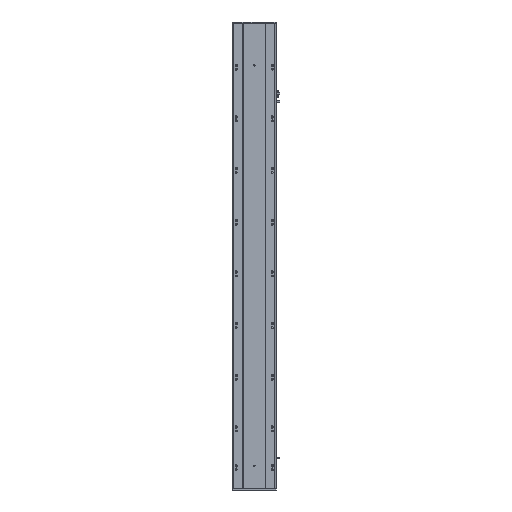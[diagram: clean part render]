
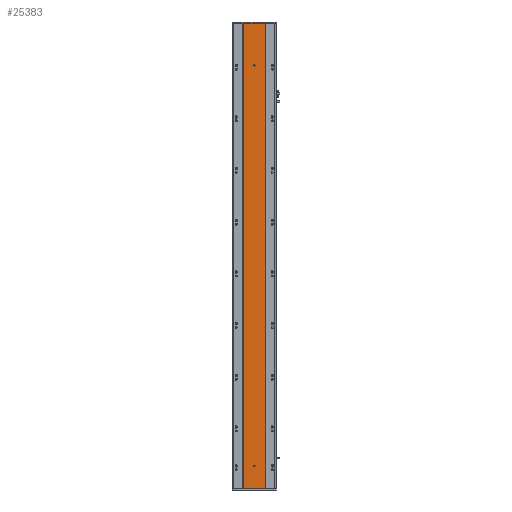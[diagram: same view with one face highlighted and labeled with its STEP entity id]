
A CAD part, front view. The second image highlights one B-rep face of the part: STEP entity #25383.
In plain terms, the highlighted planar face has unit normal (0, -1, 0).
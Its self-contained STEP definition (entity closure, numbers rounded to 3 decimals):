
#206 = CARTESIAN_POINT ( 'NONE',  ( 42.916, 2.57, 1801. ) ) ;
#211 = DIRECTION ( 'NONE',  ( 0., 1., 0. ) ) ;
#227 = VERTEX_POINT ( 'NONE', #11263 ) ;
#434 = ORIENTED_EDGE ( 'NONE', *, *, #15100, .T. ) ;
#745 = CARTESIAN_POINT ( 'NONE',  ( 42.916, 2.57, 0. ) ) ;
#1095 = ORIENTED_EDGE ( 'NONE', *, *, #8632, .F. ) ;
#1358 = DIRECTION ( 'NONE',  ( 0., 1., 0. ) ) ;
#1544 = DIRECTION ( 'NONE',  ( 0., 0., 1. ) ) ;
#1625 = CARTESIAN_POINT ( 'NONE',  ( 85., 2.57, 88.5 ) ) ;
#2312 = ORIENTED_EDGE ( 'NONE', *, *, #4499, .T. ) ;
#2417 = AXIS2_PLACEMENT_3D ( 'NONE', #12900, #211, #14986 ) ;
#2889 = DIRECTION ( 'NONE',  ( 0., 0., 1. ) ) ;
#3333 = VERTEX_POINT ( 'NONE', #9045 ) ;
#3544 = CIRCLE ( 'NONE', #17287, 3. ) ;
#3647 = CARTESIAN_POINT ( 'NONE',  ( 42.916, 2.57, 0. ) ) ;
#3763 = DIRECTION ( 'NONE',  ( 0., 0., 1. ) ) ;
#4018 = DIRECTION ( 'NONE',  ( 0., 0., 1. ) ) ;
#4142 = VERTEX_POINT ( 'NONE', #16982 ) ;
#4392 = LINE ( 'NONE', #745, #14939 ) ;
#4499 = EDGE_CURVE ( 'NONE', #25143, #18192, #25700, .T. ) ;
#4501 = VECTOR ( 'NONE', #5792, 1000. ) ;
#4582 = EDGE_CURVE ( 'NONE', #4142, #227, #13329, .T. ) ;
#5792 = DIRECTION ( 'NONE',  ( -1., 0., 0. ) ) ;
#7042 = FACE_BOUND ( 'NONE', #16133, .T. ) ;
#7349 = CARTESIAN_POINT ( 'NONE',  ( 85., 2.57, 1635.5 ) ) ;
#7976 = AXIS2_PLACEMENT_3D ( 'NONE', #14047, #1358, #16127 ) ;
#8007 = AXIS2_PLACEMENT_3D ( 'NONE', #21703, #9185, #23773 ) ;
#8632 = EDGE_CURVE ( 'NONE', #4142, #19494, #21227, .T. ) ;
#9045 = CARTESIAN_POINT ( 'NONE',  ( 85., 2.57, 85.5 ) ) ;
#9185 = DIRECTION ( 'NONE',  ( 0., 1., 0. ) ) ;
#10925 = ORIENTED_EDGE ( 'NONE', *, *, #13110, .T. ) ;
#11051 = VERTEX_POINT ( 'NONE', #206 ) ;
#11087 = VERTEX_POINT ( 'NONE', #14984 ) ;
#11263 = CARTESIAN_POINT ( 'NONE',  ( 126.916, 2.57, 1801. ) ) ;
#11557 = DIRECTION ( 'NONE',  ( -1., 0., 0. ) ) ;
#11914 = CARTESIAN_POINT ( 'NONE',  ( 42.916, 2.57, 0. ) ) ;
#12011 = FACE_OUTER_BOUND ( 'NONE', #22843, .T. ) ;
#12900 = CARTESIAN_POINT ( 'NONE',  ( 85., 2.57, 1638.5 ) ) ;
#13110 = EDGE_CURVE ( 'NONE', #18192, #25143, #23914, .T. ) ;
#13329 = LINE ( 'NONE', #16301, #23708 ) ;
#13742 = CIRCLE ( 'NONE', #8007, 3. ) ;
#14047 = CARTESIAN_POINT ( 'NONE',  ( 85., 2.57, 1638.5 ) ) ;
#14086 = EDGE_CURVE ( 'NONE', #3333, #11087, #3544, .T. ) ;
#14087 = LINE ( 'NONE', #15765, #24465 ) ;
#14939 = VECTOR ( 'NONE', #2889, 1000. ) ;
#14984 = CARTESIAN_POINT ( 'NONE',  ( 85., 2.57, 91.5 ) ) ;
#14986 = DIRECTION ( 'NONE',  ( 0., 0., 1. ) ) ;
#15100 = EDGE_CURVE ( 'NONE', #227, #11051, #14087, .T. ) ;
#15765 = CARTESIAN_POINT ( 'NONE',  ( 42.916, 2.57, 1801. ) ) ;
#16127 = DIRECTION ( 'NONE',  ( 0., 0., 1. ) ) ;
#16133 = EDGE_LOOP ( 'NONE', ( #2312, #10925 ) ) ;
#16301 = CARTESIAN_POINT ( 'NONE',  ( 126.916, 2.57, 0. ) ) ;
#16388 = DIRECTION ( 'NONE',  ( 0., 1., 0. ) ) ;
#16453 = PLANE ( 'NONE',  #20715 ) ;
#16635 = DIRECTION ( 'NONE',  ( 0., 1., 0. ) ) ;
#16960 = EDGE_LOOP ( 'NONE', ( #23672, #25836 ) ) ;
#16982 = CARTESIAN_POINT ( 'NONE',  ( 126.916, 2.57, 0. ) ) ;
#17287 = AXIS2_PLACEMENT_3D ( 'NONE', #1625, #16388, #3763 ) ;
#18192 = VERTEX_POINT ( 'NONE', #21536 ) ;
#19494 = VERTEX_POINT ( 'NONE', #11914 ) ;
#20567 = EDGE_CURVE ( 'NONE', #11087, #3333, #13742, .T. ) ;
#20715 = AXIS2_PLACEMENT_3D ( 'NONE', #24884, #16635, #4018 ) ;
#21227 = LINE ( 'NONE', #3647, #4501 ) ;
#21536 = CARTESIAN_POINT ( 'NONE',  ( 85., 2.57, 1641.5 ) ) ;
#21703 = CARTESIAN_POINT ( 'NONE',  ( 85., 2.57, 88.5 ) ) ;
#22280 = EDGE_CURVE ( 'NONE', #19494, #11051, #4392, .T. ) ;
#22843 = EDGE_LOOP ( 'NONE', ( #434, #23585, #1095, #25542 ) ) ;
#23074 = FACE_BOUND ( 'NONE', #16960, .T. ) ;
#23585 = ORIENTED_EDGE ( 'NONE', *, *, #22280, .F. ) ;
#23672 = ORIENTED_EDGE ( 'NONE', *, *, #14086, .T. ) ;
#23708 = VECTOR ( 'NONE', #1544, 1000. ) ;
#23773 = DIRECTION ( 'NONE',  ( 0., 0., 1. ) ) ;
#23914 = CIRCLE ( 'NONE', #2417, 3. ) ;
#24465 = VECTOR ( 'NONE', #11557, 1000. ) ;
#24884 = CARTESIAN_POINT ( 'NONE',  ( 42.916, 2.57, 0. ) ) ;
#25143 = VERTEX_POINT ( 'NONE', #7349 ) ;
#25383 = ADVANCED_FACE ( 'NONE', ( #23074, #7042, #12011 ), #16453, .F. ) ;
#25542 = ORIENTED_EDGE ( 'NONE', *, *, #4582, .T. ) ;
#25700 = CIRCLE ( 'NONE', #7976, 3. ) ;
#25836 = ORIENTED_EDGE ( 'NONE', *, *, #20567, .T. ) ;
